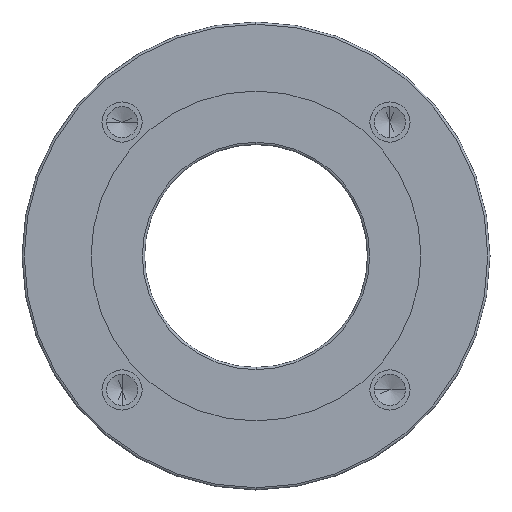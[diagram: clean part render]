
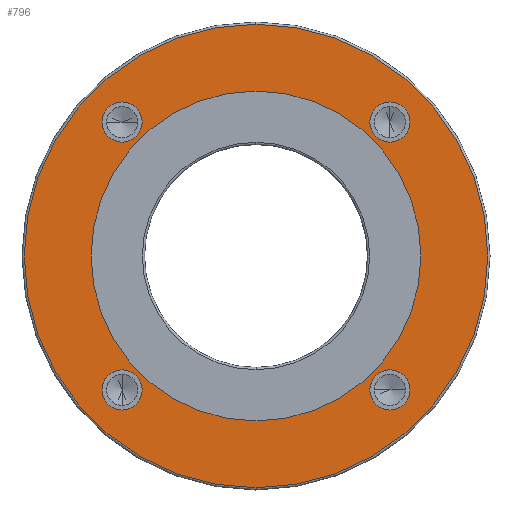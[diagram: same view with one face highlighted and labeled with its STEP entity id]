
A CAD part, left-side view. The second image highlights one B-rep face of the part: STEP entity #796.
In plain terms, the highlighted planar face has unit normal (-1, 0, 0).
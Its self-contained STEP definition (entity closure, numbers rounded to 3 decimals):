
#315 = VERTEX_POINT ( 'NONE', #1943 ) ;
#352 = VERTEX_POINT ( 'NONE', #2030 ) ;
#357 = EDGE_CURVE ( 'NONE', #315, #352, #2028, .T. ) ;
#388 = VERTEX_POINT ( 'NONE', #1557 ) ;
#392 = EDGE_CURVE ( 'NONE', #508, #388, #1605, .T. ) ;
#461 = EDGE_CURVE ( 'NONE', #483, #466, #1690, .T. ) ;
#466 = VERTEX_POINT ( 'NONE', #1694 ) ;
#483 = VERTEX_POINT ( 'NONE', #867 ) ;
#508 = VERTEX_POINT ( 'NONE', #899 ) ;
#509 = EDGE_CURVE ( 'NONE', #510, #516, #864, .T. ) ;
#510 = VERTEX_POINT ( 'NONE', #907 ) ;
#516 = VERTEX_POINT ( 'NONE', #953 ) ;
#641 = EDGE_LOOP ( 'NONE', ( #728, #714 ) ) ;
#655 = EDGE_LOOP ( 'NONE', ( #798, #729 ) ) ;
#699 = VERTEX_POINT ( 'NONE', #1218 ) ;
#707 = VERTEX_POINT ( 'NONE', #1300 ) ;
#713 = EDGE_LOOP ( 'NONE', ( #720, #716 ) ) ;
#714 = ORIENTED_EDGE ( 'NONE', *, *, #392, .F. ) ;
#715 = EDGE_CURVE ( 'NONE', #352, #315, #1291, .T. ) ;
#716 = ORIENTED_EDGE ( 'NONE', *, *, #730, .F. ) ;
#717 = EDGE_LOOP ( 'NONE', ( #723, #802 ) ) ;
#718 = ORIENTED_EDGE ( 'NONE', *, *, #461, .F. ) ;
#719 = EDGE_CURVE ( 'NONE', #830, #822, #1263, .T. ) ;
#720 = ORIENTED_EDGE ( 'NONE', *, *, #817, .F. ) ;
#721 = EDGE_LOOP ( 'NONE', ( #805, #718 ) ) ;
#723 = ORIENTED_EDGE ( 'NONE', *, *, #719, .F. ) ;
#727 = ORIENTED_EDGE ( 'NONE', *, *, #357, .F. ) ;
#728 = ORIENTED_EDGE ( 'NONE', *, *, #797, .F. ) ;
#729 = ORIENTED_EDGE ( 'NONE', *, *, #509, .T. ) ;
#730 = EDGE_CURVE ( 'NONE', #707, #699, #1125, .T. ) ;
#796 = ADVANCED_FACE ( 'NONE', ( #1427, #1403, #1441, #1432, #1423, #1404 ), #1435, .F. ) ;
#797 = EDGE_CURVE ( 'NONE', #388, #508, #1408, .T. ) ;
#798 = ORIENTED_EDGE ( 'NONE', *, *, #800, .T. ) ;
#799 = EDGE_LOOP ( 'NONE', ( #801, #727 ) ) ;
#800 = EDGE_CURVE ( 'NONE', #516, #510, #1439, .T. ) ;
#801 = ORIENTED_EDGE ( 'NONE', *, *, #715, .F. ) ;
#802 = ORIENTED_EDGE ( 'NONE', *, *, #850, .F. ) ;
#804 = EDGE_CURVE ( 'NONE', #466, #483, #1417, .T. ) ;
#805 = ORIENTED_EDGE ( 'NONE', *, *, #804, .F. ) ;
#817 = EDGE_CURVE ( 'NONE', #699, #707, #1497, .T. ) ;
#822 = VERTEX_POINT ( 'NONE', #1478 ) ;
#830 = VERTEX_POINT ( 'NONE', #1388 ) ;
#850 = EDGE_CURVE ( 'NONE', #822, #830, #1438, .T. ) ;
#864 = CIRCLE ( 'NONE', #881, 104. ) ;
#867 = CARTESIAN_POINT ( 'NONE',  ( -32., 69.104, 60.104 ) ) ;
#879 = DIRECTION ( 'NONE',  ( -1., 0., 0. ) ) ;
#881 = AXIS2_PLACEMENT_3D ( 'NONE', #890, #879, #882 ) ;
#882 = DIRECTION ( 'NONE',  ( 0., 0., -1. ) ) ;
#890 = CARTESIAN_POINT ( 'NONE',  ( -32., 0., 0. ) ) ;
#899 = CARTESIAN_POINT ( 'NONE',  ( -32., -60.104, 69.104 ) ) ;
#907 = CARTESIAN_POINT ( 'NONE',  ( -32., 0., 104. ) ) ;
#953 = CARTESIAN_POINT ( 'NONE',  ( -32., 0., -104. ) ) ;
#1118 = DIRECTION ( 'NONE',  ( -1., 0., 0. ) ) ;
#1119 = CARTESIAN_POINT ( 'NONE',  ( -32., 0., 0. ) ) ;
#1124 = AXIS2_PLACEMENT_3D ( 'NONE', #1119, #1118, #1256 ) ;
#1125 = CIRCLE ( 'NONE', #1124, 74. ) ;
#1218 = CARTESIAN_POINT ( 'NONE',  ( -32., 0., 74. ) ) ;
#1256 = DIRECTION ( 'NONE',  ( 0., 0., 1. ) ) ;
#1263 = CIRCLE ( 'NONE', #1267, 9. ) ;
#1266 = CARTESIAN_POINT ( 'NONE',  ( -32., -60.104, -60.104 ) ) ;
#1267 = AXIS2_PLACEMENT_3D ( 'NONE', #1266, #1311, #1303 ) ;
#1291 = CIRCLE ( 'NONE', #1293, 9. ) ;
#1293 = AXIS2_PLACEMENT_3D ( 'NONE', #1298, #1295, #1309 ) ;
#1295 = DIRECTION ( 'NONE',  ( -1., 0., 0. ) ) ;
#1298 = CARTESIAN_POINT ( 'NONE',  ( -32., 60.104, -60.104 ) ) ;
#1300 = CARTESIAN_POINT ( 'NONE',  ( -32., 0., -74. ) ) ;
#1303 = DIRECTION ( 'NONE',  ( 0., 0., -1. ) ) ;
#1309 = DIRECTION ( 'NONE',  ( 0., 0., -1. ) ) ;
#1311 = DIRECTION ( 'NONE',  ( -1., 0., 0. ) ) ;
#1388 = CARTESIAN_POINT ( 'NONE',  ( -32., -51.104, -60.104 ) ) ;
#1403 = FACE_BOUND ( 'NONE', #641, .T. ) ;
#1404 = FACE_BOUND ( 'NONE', #721, .T. ) ;
#1406 = CARTESIAN_POINT ( 'NONE',  ( -32., 105., 0. ) ) ;
#1407 = AXIS2_PLACEMENT_3D ( 'NONE', #1406, #1410, #1409 ) ;
#1408 = CIRCLE ( 'NONE', #1426, 9. ) ;
#1409 = DIRECTION ( 'NONE',  ( 0., 0., -1. ) ) ;
#1410 = DIRECTION ( 'NONE',  ( 1., 0., 0. ) ) ;
#1413 = DIRECTION ( 'NONE',  ( 0., 0., -1. ) ) ;
#1414 = DIRECTION ( 'NONE',  ( -1., 0., 0. ) ) ;
#1415 = CARTESIAN_POINT ( 'NONE',  ( -32., 60.104, 60.104 ) ) ;
#1416 = AXIS2_PLACEMENT_3D ( 'NONE', #1415, #1414, #1413 ) ;
#1417 = CIRCLE ( 'NONE', #1416, 9. ) ;
#1419 = DIRECTION ( 'NONE',  ( 0., 0., -1. ) ) ;
#1420 = DIRECTION ( 'NONE',  ( -1., 0., 0. ) ) ;
#1421 = CARTESIAN_POINT ( 'NONE',  ( -32., 0., 0. ) ) ;
#1423 = FACE_BOUND ( 'NONE', #717, .T. ) ;
#1426 = AXIS2_PLACEMENT_3D ( 'NONE', #1431, #1430, #1429 ) ;
#1427 = FACE_OUTER_BOUND ( 'NONE', #655, .T. ) ;
#1429 = DIRECTION ( 'NONE',  ( 0., 0., -1. ) ) ;
#1430 = DIRECTION ( 'NONE',  ( -1., 0., 0. ) ) ;
#1431 = CARTESIAN_POINT ( 'NONE',  ( -32., -60.104, 60.104 ) ) ;
#1432 = FACE_BOUND ( 'NONE', #713, .T. ) ;
#1435 = PLANE ( 'NONE',  #1407 ) ;
#1436 = AXIS2_PLACEMENT_3D ( 'NONE', #1421, #1420, #1419 ) ;
#1438 = CIRCLE ( 'NONE', #1451, 9. ) ;
#1439 = CIRCLE ( 'NONE', #1436, 104. ) ;
#1441 = FACE_BOUND ( 'NONE', #799, .T. ) ;
#1451 = AXIS2_PLACEMENT_3D ( 'NONE', #1459, #1499, #1514 ) ;
#1459 = CARTESIAN_POINT ( 'NONE',  ( -32., -60.104, -60.104 ) ) ;
#1478 = CARTESIAN_POINT ( 'NONE',  ( -32., -69.104, -60.104 ) ) ;
#1481 = DIRECTION ( 'NONE',  ( 0., 0., 1. ) ) ;
#1482 = DIRECTION ( 'NONE',  ( -1., 0., 0. ) ) ;
#1483 = CARTESIAN_POINT ( 'NONE',  ( -32., 0., 0. ) ) ;
#1484 = AXIS2_PLACEMENT_3D ( 'NONE', #1483, #1482, #1481 ) ;
#1497 = CIRCLE ( 'NONE', #1484, 74. ) ;
#1499 = DIRECTION ( 'NONE',  ( -1., 0., 0. ) ) ;
#1514 = DIRECTION ( 'NONE',  ( 0., 0., -1. ) ) ;
#1557 = CARTESIAN_POINT ( 'NONE',  ( -32., -60.104, 51.104 ) ) ;
#1595 = DIRECTION ( 'NONE',  ( 0., 0., -1. ) ) ;
#1601 = DIRECTION ( 'NONE',  ( -1., 0., 0. ) ) ;
#1602 = CARTESIAN_POINT ( 'NONE',  ( -32., -60.104, 60.104 ) ) ;
#1603 = AXIS2_PLACEMENT_3D ( 'NONE', #1602, #1601, #1595 ) ;
#1605 = CIRCLE ( 'NONE', #1603, 9. ) ;
#1681 = DIRECTION ( 'NONE',  ( 0., 0., -1. ) ) ;
#1682 = AXIS2_PLACEMENT_3D ( 'NONE', #1686, #1691, #1681 ) ;
#1686 = CARTESIAN_POINT ( 'NONE',  ( -32., 60.104, 60.104 ) ) ;
#1690 = CIRCLE ( 'NONE', #1682, 9. ) ;
#1691 = DIRECTION ( 'NONE',  ( -1., 0., 0. ) ) ;
#1694 = CARTESIAN_POINT ( 'NONE',  ( -32., 51.104, 60.104 ) ) ;
#1943 = CARTESIAN_POINT ( 'NONE',  ( -32., 60.104, -69.104 ) ) ;
#2019 = DIRECTION ( 'NONE',  ( 0., 0., -1. ) ) ;
#2020 = DIRECTION ( 'NONE',  ( -1., 0., 0. ) ) ;
#2021 = CARTESIAN_POINT ( 'NONE',  ( -32., 60.104, -60.104 ) ) ;
#2022 = AXIS2_PLACEMENT_3D ( 'NONE', #2021, #2020, #2019 ) ;
#2028 = CIRCLE ( 'NONE', #2022, 9. ) ;
#2030 = CARTESIAN_POINT ( 'NONE',  ( -32., 60.104, -51.104 ) ) ;
